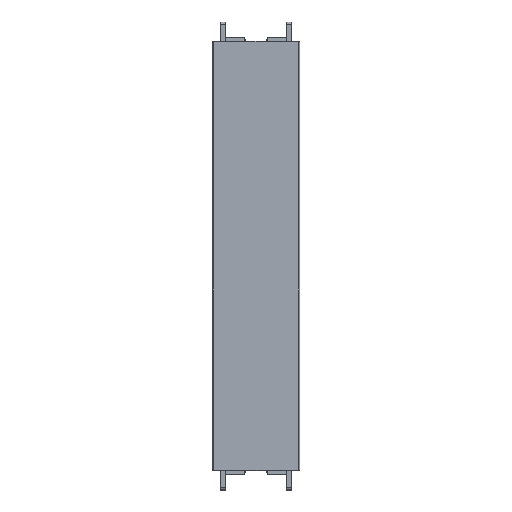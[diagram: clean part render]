
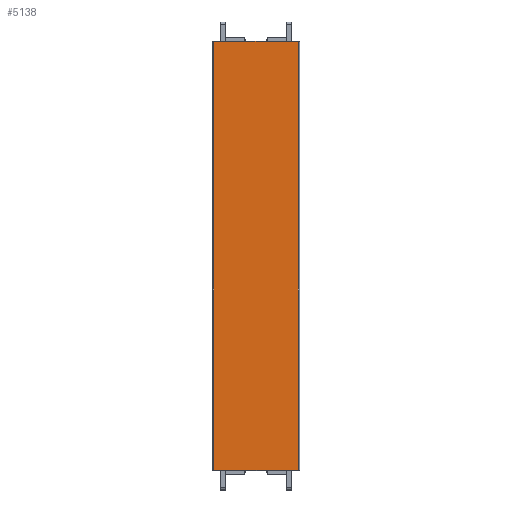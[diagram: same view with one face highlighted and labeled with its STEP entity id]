
A CAD part, top view. The second image highlights one B-rep face of the part: STEP entity #5138.
In plain terms, the highlighted planar face has unit normal (0, 0, 1) as drawn and (0, 0, -1) by its records, which use the part's own axes.
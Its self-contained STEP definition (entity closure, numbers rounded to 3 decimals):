
#1751 = CARTESIAN_POINT ( 'NONE',  ( 19.5, 98.4, -2.5 ) ) ;
#5138 = ADVANCED_FACE ( 'NONE', ( #14827 ), #61488, .F. ) ;
#7189 = VECTOR ( 'NONE', #83922, 1000. ) ;
#10313 = CARTESIAN_POINT ( 'NONE',  ( 0., -98.4, -2.5 ) ) ;
#13130 = EDGE_CURVE ( 'NONE', #65473, #84426, #72791, .T. ) ;
#14017 = VERTEX_POINT ( 'NONE', #1751 ) ;
#14827 = FACE_OUTER_BOUND ( 'NONE', #31257, .T. ) ;
#14962 = VERTEX_POINT ( 'NONE', #78981 ) ;
#29019 = LINE ( 'NONE', #35660, #7189 ) ;
#29655 = EDGE_CURVE ( 'NONE', #84426, #14017, #100801, .T. ) ;
#31257 = EDGE_LOOP ( 'NONE', ( #90018, #87035, #38120, #92369 ) ) ;
#33765 = DIRECTION ( 'NONE',  ( 1., 0., 0. ) ) ;
#35579 = DIRECTION ( 'NONE',  ( 0., -1., 0. ) ) ;
#35660 = CARTESIAN_POINT ( 'NONE',  ( 0., 98.4, -2.5 ) ) ;
#38120 = ORIENTED_EDGE ( 'NONE', *, *, #13130, .F. ) ;
#40253 = DIRECTION ( 'NONE',  ( 0., 1., 0. ) ) ;
#54805 = DIRECTION ( 'NONE',  ( 0., 0., 1. ) ) ;
#61488 = PLANE ( 'NONE',  #70388 ) ;
#62477 = DIRECTION ( 'NONE',  ( 1., 0., 0. ) ) ;
#65473 = VERTEX_POINT ( 'NONE', #96536 ) ;
#69638 = CARTESIAN_POINT ( 'NONE',  ( 0., 0., -2.5 ) ) ;
#70302 = EDGE_CURVE ( 'NONE', #14962, #65473, #75138, .T. ) ;
#70388 = AXIS2_PLACEMENT_3D ( 'NONE', #69638, #54805, #62477 ) ;
#71059 = CARTESIAN_POINT ( 'NONE',  ( 19.5, 0., -2.5 ) ) ;
#72791 = LINE ( 'NONE', #10313, #84027 ) ;
#75138 = LINE ( 'NONE', #91005, #96974 ) ;
#78981 = CARTESIAN_POINT ( 'NONE',  ( -19.5, 98.4, -2.5 ) ) ;
#83176 = VECTOR ( 'NONE', #40253, 1000. ) ;
#83922 = DIRECTION ( 'NONE',  ( -1., 0., 0. ) ) ;
#84027 = VECTOR ( 'NONE', #33765, 1000. ) ;
#84426 = VERTEX_POINT ( 'NONE', #92894 ) ;
#87035 = ORIENTED_EDGE ( 'NONE', *, *, #29655, .F. ) ;
#90018 = ORIENTED_EDGE ( 'NONE', *, *, #93047, .F. ) ;
#91005 = CARTESIAN_POINT ( 'NONE',  ( -19.5, 0., -2.5 ) ) ;
#92369 = ORIENTED_EDGE ( 'NONE', *, *, #70302, .F. ) ;
#92894 = CARTESIAN_POINT ( 'NONE',  ( 19.5, -98.4, -2.5 ) ) ;
#93047 = EDGE_CURVE ( 'NONE', #14017, #14962, #29019, .T. ) ;
#96536 = CARTESIAN_POINT ( 'NONE',  ( -19.5, -98.4, -2.5 ) ) ;
#96974 = VECTOR ( 'NONE', #35579, 1000. ) ;
#100801 = LINE ( 'NONE', #71059, #83176 ) ;
